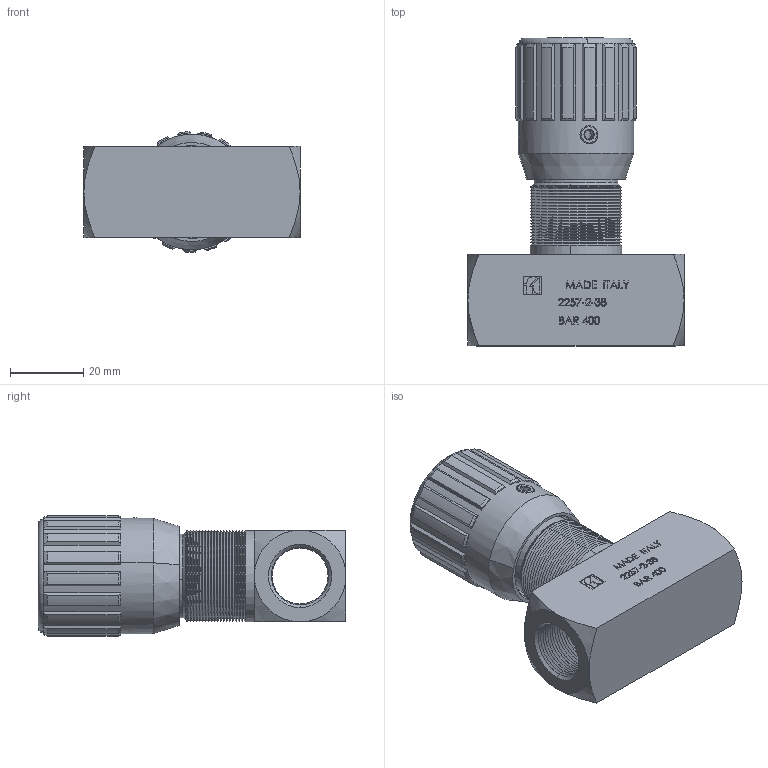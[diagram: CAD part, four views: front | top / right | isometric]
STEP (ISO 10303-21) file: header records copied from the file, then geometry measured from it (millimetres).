
FILE_DESCRIPTION (( 'STEP AP214' ), '1' );
FILE_NAME ('2257-2-38.STEP', '2015-04-11T11:25:03', ( '' ), ( '' ), 'SwSTEP 2.0', 'SolidWorks 2014', '' );
FILE_SCHEMA (( 'AUTOMOTIVE_DESIGN' ));
Length unit declared in the file: millimetre
Products named in the file (1): 2257-2-38
Bounding box: 59 x 84 x 32.98 mm (x, y, z)
Surface area: 18289.6 mm2 (no closed solid volume)
Topology: 0 solids, 23 shells, 711 faces, 2246 edges, 1481 vertices
Faces by surface type: plane 344, cone 218, bspline 96, cylinder 51, torus 2
Entity records: 38765 total; most frequent: CARTESIAN_POINT 12010, ORIENTED_EDGE 3815, DIRECTION 3570, EDGE_CURVE 2246, LINE 1504, VECTOR 1504, VERTEX_POINT 1481, AXIS2_PLACEMENT_3D 1033
